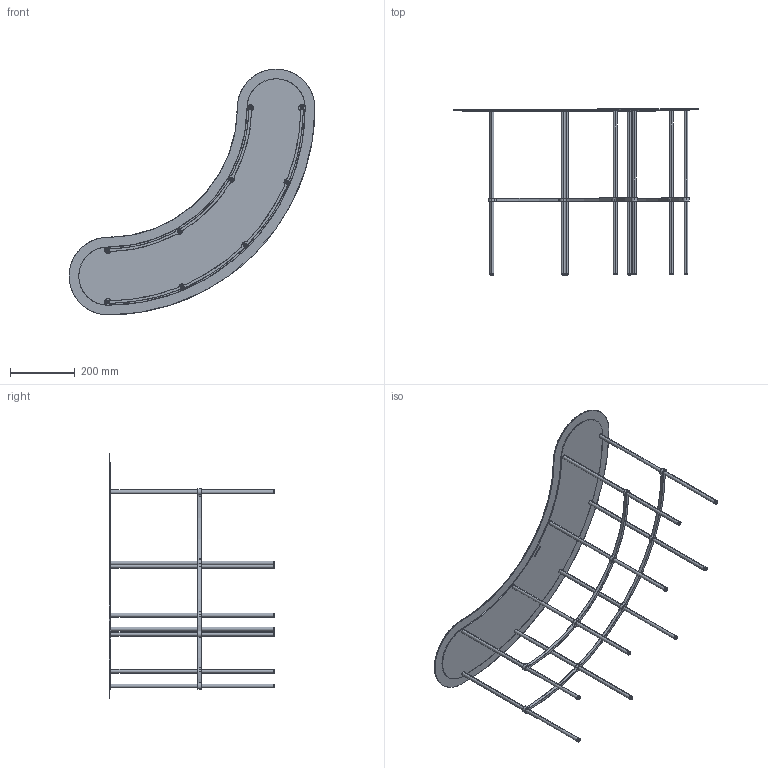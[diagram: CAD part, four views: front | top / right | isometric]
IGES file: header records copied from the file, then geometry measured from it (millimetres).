
Start section: SolidWorks IGES file using analytic representation for surfaces
Global section: file name: \\utenti\Dati Utenti\Tecnico\DC\2D - 3D per sito\3D\DeCastelli-3D-Scribble Parenthesis.igs; native system: SolidWorks 2022; preprocessor: SolidWorks 2022; author: Simonep; date: 240729.120821; units: millimetre
Bounding box: 760 x 513.05 x 760 mm (x, y, z)
Surface area: 904027.6 mm2 (no closed solid volume)
Topology: 0 solids, 0 shells, 213 faces, 2605 edges, 2587 vertices
Faces by surface type: revolution 113, bspline 100
